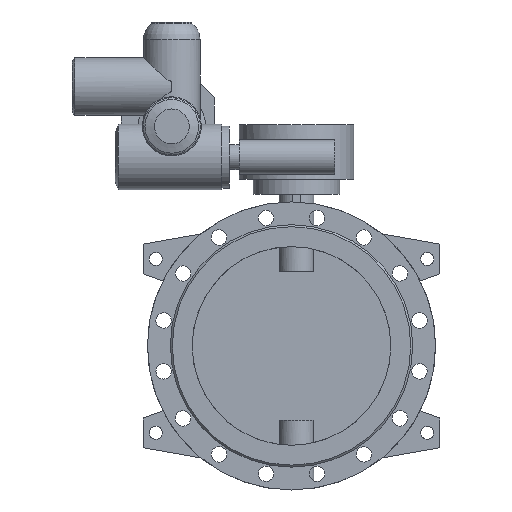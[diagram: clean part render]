
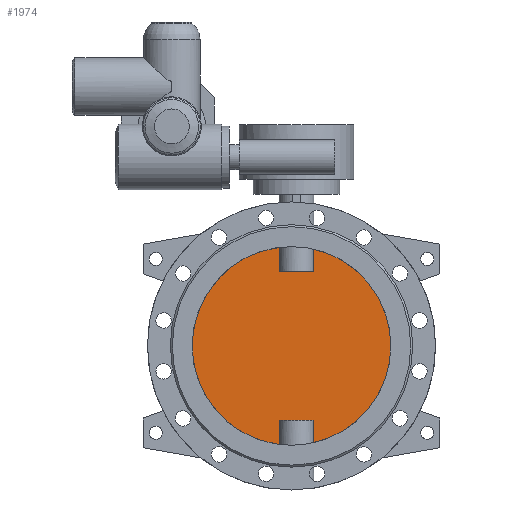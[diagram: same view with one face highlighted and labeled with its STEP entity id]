
A CAD part, front view. The second image highlights one B-rep face of the part: STEP entity #1974.
In plain terms, the highlighted planar face has unit normal (0, -1, 0).
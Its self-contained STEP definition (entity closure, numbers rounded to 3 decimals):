
#1974=ADVANCED_FACE('',(#3931),#3933,.F.);
#3931=FACE_BOUND('',#3932,.T.);
#3932=EDGE_LOOP('',(#4831,#4832,#4833,#4834,#4835,#4836,#4837,#4838));
#3933=PLANE('',#3934);
#3934=AXIS2_PLACEMENT_3D('',#3935,#3936,#3937);
#3935=CARTESIAN_POINT('',(0.,-5.,0.));
#3936=DIRECTION('',(0.,1.,0.));
#3937=DIRECTION('',(1.,0.,0.));
#4831=ORIENTED_EDGE('',*,*,#5282,.T.);
#4832=ORIENTED_EDGE('',*,*,#5287,.T.);
#4833=ORIENTED_EDGE('',*,*,#5288,.T.);
#4834=ORIENTED_EDGE('',*,*,#5289,.T.);
#4835=ORIENTED_EDGE('',*,*,#5284,.T.);
#4836=ORIENTED_EDGE('',*,*,#5290,.T.);
#4837=ORIENTED_EDGE('',*,*,#5291,.T.);
#4838=ORIENTED_EDGE('',*,*,#5292,.T.);
#5282=EDGE_CURVE('',#6067,#6068,#6069,.F.);
#5284=EDGE_CURVE('',#6072,#6070,#6073,.F.);
#5287=EDGE_CURVE('',#6068,#6077,#6078,.T.);
#5288=EDGE_CURVE('',#6077,#6079,#6080,.F.);
#5289=EDGE_CURVE('',#6079,#6072,#6081,.F.);
#5290=EDGE_CURVE('',#6070,#6082,#6083,.F.);
#5291=EDGE_CURVE('',#6082,#6084,#6085,.F.);
#5292=EDGE_CURVE('',#6084,#6067,#6086,.T.);
#6067=VERTEX_POINT('',#9894);
#6068=VERTEX_POINT('',#9895);
#6069=CIRCLE('',#9896,200.);
#6070=VERTEX_POINT('',#9900);
#6072=VERTEX_POINT('',#9963);
#6073=CIRCLE('',#9964,200.);
#6077=VERTEX_POINT('',#10086);
#6078=LINE('',#10087,#10088);
#6079=VERTEX_POINT('',#10090);
#6080=LINE('',#10091,#10092);
#6081=LINE('',#10094,#10095);
#6082=VERTEX_POINT('',#10097);
#6083=LINE('',#10098,#10099);
#6084=VERTEX_POINT('',#10101);
#6085=LINE('',#10102,#10103);
#6086=LINE('',#10105,#10106);
#9894=CARTESIAN_POINT('',(44.641,-5.,-194.954));
#9895=CARTESIAN_POINT('',(44.641,-5.,194.954));
#9896=AXIS2_PLACEMENT_3D('',#9897,#9898,#9899);
#9897=CARTESIAN_POINT('',(0.,-5.,0.));
#9898=DIRECTION('',(0.,1.,0.));
#9899=DIRECTION('',(0.223,0.,0.975));
#9900=CARTESIAN_POINT('',(-24.641,-5.,-198.476));
#9963=CARTESIAN_POINT('',(-24.641,-5.,198.476));
#9964=AXIS2_PLACEMENT_3D('',#9965,#9966,#9967);
#9965=CARTESIAN_POINT('',(0.,-5.,0.));
#9966=DIRECTION('',(0.,1.,0.));
#9967=DIRECTION('',(-0.123,0.,-0.992));
#10086=CARTESIAN_POINT('',(44.641,-5.,150.));
#10087=CARTESIAN_POINT('',(44.641,-5.,194.954));
#10088=VECTOR('',#10089,1.);
#10089=DIRECTION('',(0.,0.,-1.));
#10090=CARTESIAN_POINT('',(-24.641,-5.,150.));
#10091=CARTESIAN_POINT('',(-24.641,-5.,150.));
#10092=VECTOR('',#10093,1.);
#10093=DIRECTION('',(1.,0.,0.));
#10094=CARTESIAN_POINT('',(-24.641,-5.,198.476));
#10095=VECTOR('',#10096,1.);
#10096=DIRECTION('',(0.,0.,-1.));
#10097=CARTESIAN_POINT('',(-24.641,-5.,-150.));
#10098=CARTESIAN_POINT('',(-24.641,-5.,-150.));
#10099=VECTOR('',#10100,1.);
#10100=DIRECTION('',(0.,0.,-1.));
#10101=CARTESIAN_POINT('',(44.641,-5.,-150.));
#10102=CARTESIAN_POINT('',(44.641,-5.,-150.));
#10103=VECTOR('',#10104,1.);
#10104=DIRECTION('',(-1.,0.,0.));
#10105=CARTESIAN_POINT('',(44.641,-5.,-150.));
#10106=VECTOR('',#10107,1.);
#10107=DIRECTION('',(0.,0.,-1.));
